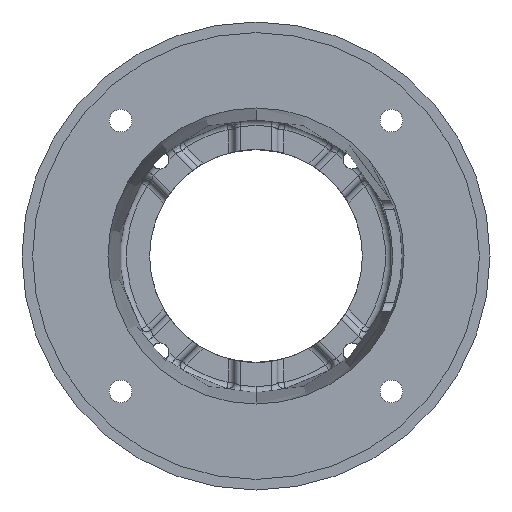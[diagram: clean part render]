
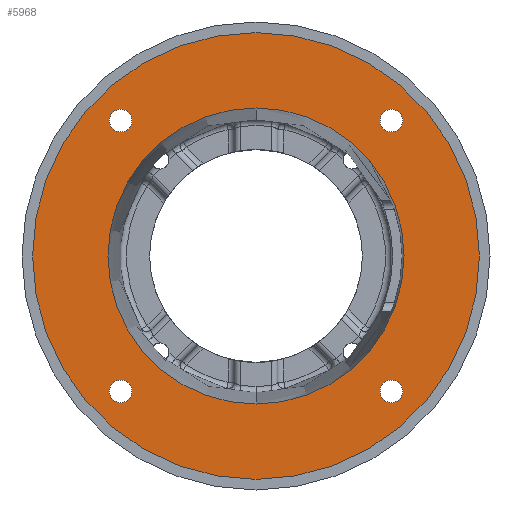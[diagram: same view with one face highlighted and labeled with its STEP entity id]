
A CAD part, front view. The second image highlights one B-rep face of the part: STEP entity #5968.
In plain terms, the highlighted planar face has unit normal (0, -1, 0).
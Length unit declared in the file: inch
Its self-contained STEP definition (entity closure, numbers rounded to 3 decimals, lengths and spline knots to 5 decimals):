
#1867 = CARTESIAN_POINT ( 'NONE',  ( -3.18198, 0.18, 3.44761 ) ) ;
#2018 = CARTESIAN_POINT ( 'NONE',  ( 3.18198, 0.18, 2.91636 ) ) ;
#2019 = DIRECTION ( 'NONE',  ( 0., 0., -1. ) ) ;
#2020 = DIRECTION ( 'NONE',  ( 0., -1., 0. ) ) ;
#2021 = CARTESIAN_POINT ( 'NONE',  ( 3.18198, 0.18, 3.18198 ) ) ;
#2022 = AXIS2_PLACEMENT_3D ( 'NONE', #2021, #2020, #2019 ) ;
#2023 = CIRCLE ( 'NONE', #2022, 0.26562 ) ;
#2110 = CARTESIAN_POINT ( 'NONE',  ( 3.18198, 0.18, 3.44761 ) ) ;
#2145 = CARTESIAN_POINT ( 'NONE',  ( -3.18198, 0.18, 2.91636 ) ) ;
#2146 = DIRECTION ( 'NONE',  ( 0., 0., -1. ) ) ;
#2147 = DIRECTION ( 'NONE',  ( 0., -1., 0. ) ) ;
#2148 = AXIS2_PLACEMENT_3D ( 'NONE', #2154, #2147, #2146 ) ;
#2149 = CIRCLE ( 'NONE', #2148, 0.26562 ) ;
#2154 = CARTESIAN_POINT ( 'NONE',  ( -3.18198, 0.18, 3.18198 ) ) ;
#5433 = CARTESIAN_POINT ( 'NONE',  ( 0., 0.18, -5.2505 ) ) ;
#5438 = DIRECTION ( 'NONE',  ( 0., 0., -1. ) ) ;
#5439 = DIRECTION ( 'NONE',  ( 0., -1., 0. ) ) ;
#5440 = CARTESIAN_POINT ( 'NONE',  ( 0., 0.18, 0. ) ) ;
#5441 = AXIS2_PLACEMENT_3D ( 'NONE', #5440, #5439, #5438 ) ;
#5442 = CIRCLE ( 'NONE', #5441, 5.2505 ) ;
#5444 = CARTESIAN_POINT ( 'NONE',  ( 0., 0.18, 5.2505 ) ) ;
#5491 = CARTESIAN_POINT ( 'NONE',  ( -3.18198, 0.18, -3.44761 ) ) ;
#5497 = DIRECTION ( 'NONE',  ( 0., 0., -1. ) ) ;
#5498 = DIRECTION ( 'NONE',  ( 0., -1., 0. ) ) ;
#5499 = CARTESIAN_POINT ( 'NONE',  ( -3.18198, 0.18, -3.18198 ) ) ;
#5500 = AXIS2_PLACEMENT_3D ( 'NONE', #5499, #5498, #5497 ) ;
#5501 = CIRCLE ( 'NONE', #5500, 0.26562 ) ;
#5503 = DIRECTION ( 'NONE',  ( 0., -1., 0. ) ) ;
#5504 = AXIS2_PLACEMENT_3D ( 'NONE', #5529, #5503, #5526 ) ;
#5505 = CIRCLE ( 'NONE', #5504, 5.2505 ) ;
#5526 = DIRECTION ( 'NONE',  ( 0., 0., -1. ) ) ;
#5529 = CARTESIAN_POINT ( 'NONE',  ( 0., 0.18, 0. ) ) ;
#5941 = ORIENTED_EDGE ( 'NONE', *, *, #6573, .T. ) ;
#5942 = ORIENTED_EDGE ( 'NONE', *, *, #6751, .T. ) ;
#5948 = ORIENTED_EDGE ( 'NONE', *, *, #8184, .F. ) ;
#5949 = EDGE_LOOP ( 'NONE', ( #5950, #5952 ) ) ;
#5950 = ORIENTED_EDGE ( 'NONE', *, *, #5951, .F. ) ;
#5951 = EDGE_CURVE ( 'NONE', #8139, #8163, #9796, .T. ) ;
#5952 = ORIENTED_EDGE ( 'NONE', *, *, #8137, .F. ) ;
#5953 = EDGE_LOOP ( 'NONE', ( #5954, #5956 ) ) ;
#5954 = ORIENTED_EDGE ( 'NONE', *, *, #5955, .F. ) ;
#5955 = EDGE_CURVE ( 'NONE', #5999, #6234, #9792, .T. ) ;
#5956 = ORIENTED_EDGE ( 'NONE', *, *, #5997, .F. ) ;
#5957 = EDGE_LOOP ( 'NONE', ( #5958, #5960 ) ) ;
#5958 = ORIENTED_EDGE ( 'NONE', *, *, #5959, .F. ) ;
#5959 = EDGE_CURVE ( 'NONE', #14130, #5993, #9787, .T. ) ;
#5960 = ORIENTED_EDGE ( 'NONE', *, *, #14126, .F. ) ;
#5968 = ADVANCED_FACE ( 'NONE', ( #9782, #9781, #9780, #9779, #9778, #9777 ), #9775, .T. ) ;
#5969 = EDGE_LOOP ( 'NONE', ( #5970, #5948 ) ) ;
#5970 = ORIENTED_EDGE ( 'NONE', *, *, #5971, .F. ) ;
#5971 = EDGE_CURVE ( 'NONE', #8185, #8111, #9835, .T. ) ;
#5993 = VERTEX_POINT ( 'NONE', #9810 ) ;
#5997 = EDGE_CURVE ( 'NONE', #6234, #5999, #9869, .T. ) ;
#5999 = VERTEX_POINT ( 'NONE', #9858 ) ;
#6234 = VERTEX_POINT ( 'NONE', #10492 ) ;
#6571 = VERTEX_POINT ( 'NONE', #11548 ) ;
#6573 = EDGE_CURVE ( 'NONE', #6574, #6571, #11546, .T. ) ;
#6574 = VERTEX_POINT ( 'NONE', #11541 ) ;
#6751 = EDGE_CURVE ( 'NONE', #6571, #6574, #12182, .T. ) ;
#8111 = VERTEX_POINT ( 'NONE', #1867 ) ;
#8137 = EDGE_CURVE ( 'NONE', #8163, #8139, #2023, .T. ) ;
#8139 = VERTEX_POINT ( 'NONE', #2018 ) ;
#8163 = VERTEX_POINT ( 'NONE', #2110 ) ;
#8184 = EDGE_CURVE ( 'NONE', #8111, #8185, #2149, .T. ) ;
#8185 = VERTEX_POINT ( 'NONE', #2145 ) ;
#9254 = VERTEX_POINT ( 'NONE', #5444 ) ;
#9255 = EDGE_CURVE ( 'NONE', #9254, #9258, #5442, .T. ) ;
#9258 = VERTEX_POINT ( 'NONE', #5433 ) ;
#9771 = DIRECTION ( 'NONE',  ( 0., 0., -1. ) ) ;
#9772 = DIRECTION ( 'NONE',  ( 0., -1., 0. ) ) ;
#9773 = CARTESIAN_POINT ( 'NONE',  ( 0., 0.18, 0. ) ) ;
#9774 = AXIS2_PLACEMENT_3D ( 'NONE', #9773, #9772, #9771 ) ;
#9775 = PLANE ( 'NONE',  #9774 ) ;
#9776 = CARTESIAN_POINT ( 'NONE',  ( -3.18198, 0.18, 3.18198 ) ) ;
#9777 = FACE_BOUND ( 'NONE', #14135, .T. ) ;
#9778 = FACE_OUTER_BOUND ( 'NONE', #14186, .T. ) ;
#9779 = FACE_BOUND ( 'NONE', #5957, .T. ) ;
#9780 = FACE_BOUND ( 'NONE', #5953, .T. ) ;
#9781 = FACE_BOUND ( 'NONE', #5949, .T. ) ;
#9782 = FACE_BOUND ( 'NONE', #5969, .T. ) ;
#9783 = DIRECTION ( 'NONE',  ( 0., 0., -1. ) ) ;
#9784 = DIRECTION ( 'NONE',  ( 0., -1., 0. ) ) ;
#9785 = CARTESIAN_POINT ( 'NONE',  ( -3.18198, 0.18, -3.18198 ) ) ;
#9786 = AXIS2_PLACEMENT_3D ( 'NONE', #9785, #9784, #9783 ) ;
#9787 = CIRCLE ( 'NONE', #9786, 0.26562 ) ;
#9788 = DIRECTION ( 'NONE',  ( 0., 0., -1. ) ) ;
#9789 = DIRECTION ( 'NONE',  ( 0., -1., 0. ) ) ;
#9790 = CARTESIAN_POINT ( 'NONE',  ( 3.18198, 0.18, -3.18198 ) ) ;
#9791 = AXIS2_PLACEMENT_3D ( 'NONE', #9790, #9789, #9788 ) ;
#9792 = CIRCLE ( 'NONE', #9791, 0.26562 ) ;
#9793 = DIRECTION ( 'NONE',  ( 0., 0., -1. ) ) ;
#9794 = DIRECTION ( 'NONE',  ( 0., -1., 0. ) ) ;
#9795 = AXIS2_PLACEMENT_3D ( 'NONE', #9800, #9794, #9793 ) ;
#9796 = CIRCLE ( 'NONE', #9795, 0.26562 ) ;
#9800 = CARTESIAN_POINT ( 'NONE',  ( 3.18198, 0.18, 3.18198 ) ) ;
#9810 = CARTESIAN_POINT ( 'NONE',  ( -3.18198, 0.18, -2.91636 ) ) ;
#9832 = DIRECTION ( 'NONE',  ( 0., 0., -1. ) ) ;
#9833 = DIRECTION ( 'NONE',  ( 0., -1., 0. ) ) ;
#9834 = AXIS2_PLACEMENT_3D ( 'NONE', #9776, #9833, #9832 ) ;
#9835 = CIRCLE ( 'NONE', #9834, 0.26562 ) ;
#9858 = CARTESIAN_POINT ( 'NONE',  ( 3.18198, 0.18, -3.44761 ) ) ;
#9865 = DIRECTION ( 'NONE',  ( 0., 0., -1. ) ) ;
#9866 = DIRECTION ( 'NONE',  ( 0., -1., 0. ) ) ;
#9867 = CARTESIAN_POINT ( 'NONE',  ( 3.18198, 0.18, -3.18198 ) ) ;
#9868 = AXIS2_PLACEMENT_3D ( 'NONE', #9867, #9866, #9865 ) ;
#9869 = CIRCLE ( 'NONE', #9868, 0.26562 ) ;
#10492 = CARTESIAN_POINT ( 'NONE',  ( 3.18198, 0.18, -2.91636 ) ) ;
#11541 = CARTESIAN_POINT ( 'NONE',  ( 0., 0.18, -3.47973 ) ) ;
#11542 = DIRECTION ( 'NONE',  ( 0., 0., -1. ) ) ;
#11543 = DIRECTION ( 'NONE',  ( 0., 1., 0. ) ) ;
#11544 = CARTESIAN_POINT ( 'NONE',  ( 0., 0.18, 0. ) ) ;
#11545 = AXIS2_PLACEMENT_3D ( 'NONE', #11544, #11543, #11542 ) ;
#11546 = CIRCLE ( 'NONE', #11545, 3.47973 ) ;
#11548 = CARTESIAN_POINT ( 'NONE',  ( 0., 0.18, 3.47973 ) ) ;
#12179 = DIRECTION ( 'NONE',  ( 0., 0., -1. ) ) ;
#12180 = DIRECTION ( 'NONE',  ( 0., 1., 0. ) ) ;
#12181 = AXIS2_PLACEMENT_3D ( 'NONE', #12188, #12180, #12179 ) ;
#12182 = CIRCLE ( 'NONE', #12181, 3.47973 ) ;
#12188 = CARTESIAN_POINT ( 'NONE',  ( 0., 0.18, 0. ) ) ;
#14126 = EDGE_CURVE ( 'NONE', #5993, #14130, #5501, .T. ) ;
#14130 = VERTEX_POINT ( 'NONE', #5491 ) ;
#14135 = EDGE_LOOP ( 'NONE', ( #5941, #5942 ) ) ;
#14152 = ORIENTED_EDGE ( 'NONE', *, *, #9255, .T. ) ;
#14153 = ORIENTED_EDGE ( 'NONE', *, *, #14157, .T. ) ;
#14157 = EDGE_CURVE ( 'NONE', #9258, #9254, #5505, .T. ) ;
#14186 = EDGE_LOOP ( 'NONE', ( #14153, #14152 ) ) ;
